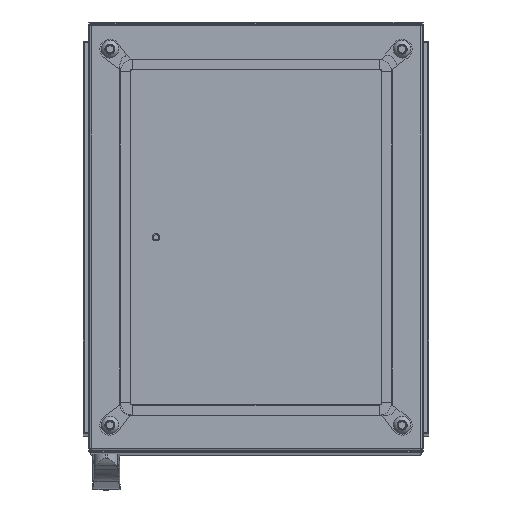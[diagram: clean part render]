
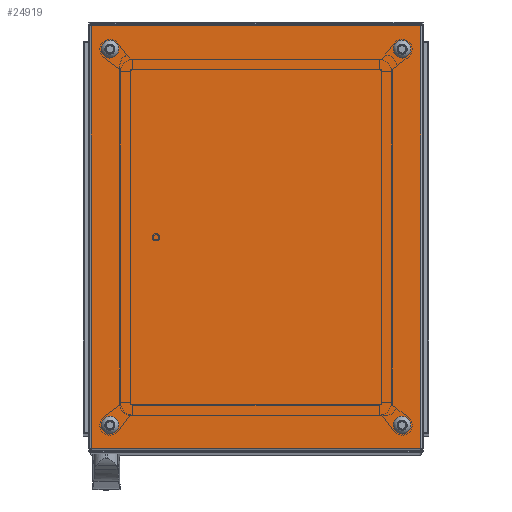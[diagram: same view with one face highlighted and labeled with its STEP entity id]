
A CAD part, top view. The second image highlights one B-rep face of the part: STEP entity #24919.
In plain terms, the highlighted planar face has unit normal (0, 0, 1).
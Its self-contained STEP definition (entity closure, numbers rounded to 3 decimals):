
#1267=CIRCLE('',#26813,6.);
#1268=CIRCLE('',#26814,6.);
#1269=CIRCLE('',#26815,6.);
#1270=CIRCLE('',#26816,6.);
#4895=ORIENTED_EDGE('',*,*,#10713,.F.);
#4896=ORIENTED_EDGE('',*,*,#10714,.F.);
#4897=ORIENTED_EDGE('',*,*,#10715,.F.);
#4898=ORIENTED_EDGE('',*,*,#10716,.F.);
#4899=ORIENTED_EDGE('',*,*,#10702,.T.);
#4900=ORIENTED_EDGE('',*,*,#10710,.T.);
#4901=ORIENTED_EDGE('',*,*,#10673,.F.);
#4902=ORIENTED_EDGE('',*,*,#10717,.F.);
#10673=EDGE_CURVE('',#13817,#13818,#16297,.T.);
#10702=EDGE_CURVE('',#13839,#13838,#16303,.T.);
#10710=EDGE_CURVE('',#13838,#13818,#16308,.T.);
#10713=EDGE_CURVE('',#13840,#13840,#1267,.T.);
#10714=EDGE_CURVE('',#13841,#13841,#1268,.T.);
#10715=EDGE_CURVE('',#13842,#13842,#1269,.T.);
#10716=EDGE_CURVE('',#13843,#13843,#1270,.T.);
#10717=EDGE_CURVE('',#13839,#13817,#16311,.T.);
#13817=VERTEX_POINT('',#39091);
#13818=VERTEX_POINT('',#39093);
#13838=VERTEX_POINT('',#39167);
#13839=VERTEX_POINT('',#39169);
#13840=VERTEX_POINT('',#39186);
#13841=VERTEX_POINT('',#39188);
#13842=VERTEX_POINT('',#39190);
#13843=VERTEX_POINT('',#39192);
#16297=LINE('',#39092,#18482);
#16303=LINE('',#39168,#18488);
#16308=LINE('',#39180,#18493);
#16311=LINE('',#39193,#18496);
#18482=VECTOR('',#31361,1000.);
#18488=VECTOR('',#31415,1000.);
#18493=VECTOR('',#31432,1000.);
#18496=VECTOR('',#31447,1000.);
#20365=EDGE_LOOP('',(#4895));
#20366=EDGE_LOOP('',(#4896));
#20367=EDGE_LOOP('',(#4897));
#20368=EDGE_LOOP('',(#4898));
#20369=EDGE_LOOP('',(#4899,#4900,#4901,#4902));
#22376=FACE_BOUND('',#20365,.T.);
#22377=FACE_BOUND('',#20366,.T.);
#22378=FACE_BOUND('',#20367,.T.);
#22379=FACE_BOUND('',#20368,.T.);
#22380=FACE_BOUND('',#20369,.T.);
#24044=PLANE('',#26812);
#24919=ADVANCED_FACE('',(#22376,#22377,#22378,#22379,#22380),#24044,.T.);
#26812=AXIS2_PLACEMENT_3D('',#39184,#31437,#31438);
#26813=AXIS2_PLACEMENT_3D('',#39185,#31439,#31440);
#26814=AXIS2_PLACEMENT_3D('',#39187,#31441,#31442);
#26815=AXIS2_PLACEMENT_3D('',#39189,#31443,#31444);
#26816=AXIS2_PLACEMENT_3D('',#39191,#31445,#31446);
#31361=DIRECTION('',(-1.,0.,0.));
#31415=DIRECTION('',(-1.,0.,0.));
#31432=DIRECTION('',(0.,-1.,0.));
#31437=DIRECTION('',(0.,0.,1.));
#31438=DIRECTION('',(1.,0.,0.));
#31439=DIRECTION('',(0.,0.,1.));
#31440=DIRECTION('',(1.,0.,0.));
#31441=DIRECTION('',(0.,0.,1.));
#31442=DIRECTION('',(1.,0.,0.));
#31443=DIRECTION('',(0.,0.,1.));
#31444=DIRECTION('',(1.,0.,0.));
#31445=DIRECTION('',(0.,0.,1.));
#31446=DIRECTION('',(1.,0.,0.));
#31447=DIRECTION('',(0.,-1.,0.));
#39091=CARTESIAN_POINT('',(196.5,-252.5,20.));
#39092=CARTESIAN_POINT('',(200.,-252.5,20.));
#39093=CARTESIAN_POINT('',(-196.5,-252.5,20.));
#39167=CARTESIAN_POINT('',(-196.5,252.5,20.));
#39168=CARTESIAN_POINT('',(200.,252.5,20.));
#39169=CARTESIAN_POINT('',(196.5,252.5,20.));
#39180=CARTESIAN_POINT('',(-196.5,255.5,20.));
#39184=CARTESIAN_POINT('',(-196.5,-252.5,20.));
#39185=CARTESIAN_POINT('',(174.5,-224.5,20.));
#39186=CARTESIAN_POINT('',(180.5,-224.5,20.));
#39187=CARTESIAN_POINT('',(-174.5,224.5,20.));
#39188=CARTESIAN_POINT('',(-168.5,224.5,20.));
#39189=CARTESIAN_POINT('',(174.5,224.5,20.));
#39190=CARTESIAN_POINT('',(180.5,224.5,20.));
#39191=CARTESIAN_POINT('',(-174.5,-224.5,20.));
#39192=CARTESIAN_POINT('',(-168.5,-224.5,20.));
#39193=CARTESIAN_POINT('',(196.5,255.5,20.));
